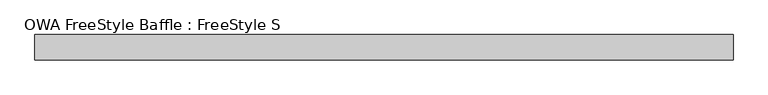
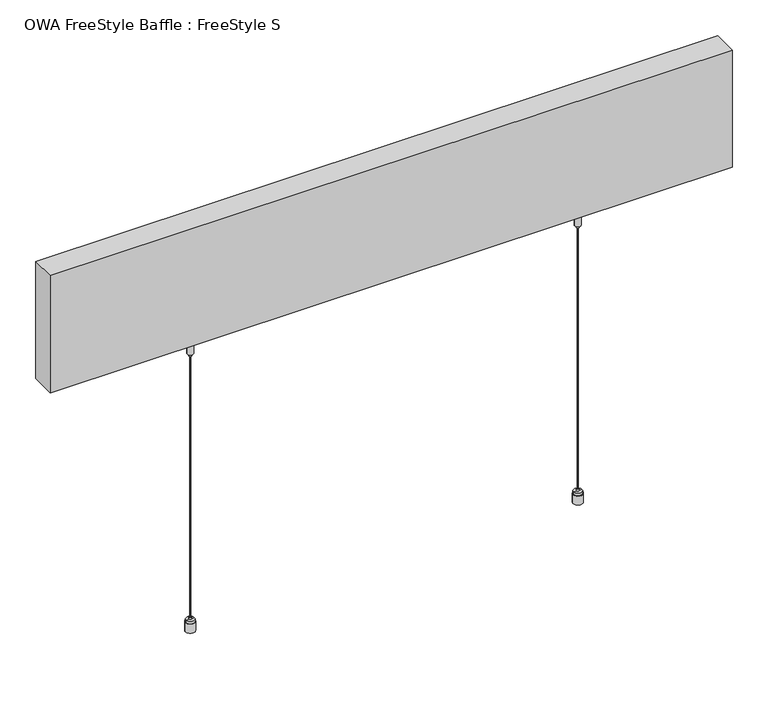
"""IFC4 building model written with IfcOpenShell, lengths in millimetres: proxy geometry, OWA FreeStyle Baffle : FreeStyle S."""

from ifc_helpers import new_model, si_unit, point, frame, frame_2d, origin, place, context, project, spatial, polyline, circle_curve, trimmed, segment, composite_curve, outline, extrude, source, transform, mapped, element, save
from ifc_brep_helpers import plane_surface, cylinder_surface, revolved_surface, advanced_brep


def owa_freestyle_baffle_freestyle_s_ccccea6c(model_context):
    return source(origin(), model_context, "Body", "SolidModel", [
        advanced_brep(
        [(-746.0, 0.0, 0.0), (-738.2593825, 0.0, 0.0), (-753.7406175, 0.0, 0.0), (-738.2593825, 0.0, 15.0), (-753.7406175, 0.0, 15.0), (-739.1843825, 0.0, 15.0), (-752.8156175, 0.0, 15.0), (-739.1843825, 0.0, 19.0), (-752.8156175, 0.0, 19.0), (-743.9343825, 0.0, 19.0), (-748.0656175, 0.0, 19.0), (-743.9343825, 0.0, 22.546183), (-748.0656175, 0.0, 22.546183), (-746.0, 0.0, 22.546183)],
        [
            (0, 1),
            (1, 2, circle_curve(frame((-746.0, 0.0, 0.0), z_axis=(0.0, 0.0, -1.0), x_axis=(-1.0, 0.0, 0.0)), 7.7406175)),
            (2, 0),
            (2, 1, circle_curve(frame((-746.0, 0.0, 0.0), z_axis=(0.0, 0.0, -1.0), x_axis=(-1.0, 0.0, 0.0)), 7.7406175)),
            (1, 3),
            (3, 4, circle_curve(frame((-746.0, 0.0, 15.0), z_axis=(0.0, 0.0, -1.0), x_axis=(-1.0, 0.0, 0.0)), 7.7406175)),
            (4, 2),
            (4, 3, circle_curve(frame((-746.0, 0.0, 15.0), z_axis=(0.0, 0.0, -1.0), x_axis=(-1.0, 0.0, 0.0)), 7.7406175)),
            (3, 5),
            (5, 6, circle_curve(frame((-746.0, 0.0, 15.0), z_axis=(0.0, 0.0, -1.0), x_axis=(-1.0, 0.0, 0.0)), 6.8156175)),
            (6, 4),
            (6, 5, circle_curve(frame((-746.0, 0.0, 15.0), z_axis=(0.0, 0.0, -1.0), x_axis=(-1.0, 0.0, 0.0)), 6.8156175)),
            (5, 7),
            (7, 8, circle_curve(frame((-746.0, 0.0, 19.0), z_axis=(0.0, 0.0, -1.0), x_axis=(-1.0, 0.0, 0.0)), 6.8156175)),
            (8, 6),
            (8, 7, circle_curve(frame((-746.0, 0.0, 19.0), z_axis=(0.0, 0.0, -1.0), x_axis=(-1.0, 0.0, 0.0)), 6.8156175)),
            (7, 9),
            (9, 10, circle_curve(frame((-746.0, 0.0, 19.0), z_axis=(0.0, 0.0, -1.0), x_axis=(-1.0, 0.0, 0.0)), 2.0656175)),
            (10, 8),
            (10, 9, circle_curve(frame((-746.0, 0.0, 19.0), z_axis=(0.0, 0.0, -1.0), x_axis=(-1.0, 0.0, 0.0)), 2.0656175)),
            (9, 11),
            (11, 12, circle_curve(frame((-746.0, 0.0, 22.546183), z_axis=(0.0, 0.0, -1.0), x_axis=(-1.0, 0.0, 0.0)), 2.0656175)),
            (12, 10),
            (12, 11, circle_curve(frame((-746.0, 0.0, 22.546183), z_axis=(0.0, 0.0, -1.0), x_axis=(-1.0, 0.0, 0.0)), 2.0656175)),
            (11, 13),
            (13, 12),
        ],
        [
            plane_surface(frame((-746.0, 0.0, 0.0), z_axis=(0.0, 0.0, -1.0), x_axis=(-1.0, 0.0, 0.0))),
            cylinder_surface(frame((-746.0, 0.0, -10.0), z_axis=(0.0, 0.0, -1.0), x_axis=(-1.0, 0.0, 0.0)), 7.7406175),
            plane_surface(frame((-746.0, 0.0, 15.0), z_axis=(0.0, 0.0, 1.0), x_axis=(-1.0, 0.0, 0.0))),
            cylinder_surface(frame((-746.0, 0.0, -10.0), z_axis=(0.0, 0.0, -1.0), x_axis=(-1.0, 0.0, 0.0)), 6.8156175),
            plane_surface(frame((-746.0, 0.0, 19.0), z_axis=(0.0, 0.0, 1.0), x_axis=(-1.0, 0.0, 0.0))),
            cylinder_surface(frame((-746.0, 0.0, -10.0), z_axis=(0.0, 0.0, -1.0), x_axis=(-1.0, 0.0, 0.0)), 2.0656175),
            plane_surface(frame((-746.0, 0.0, 22.546183), z_axis=(0.0, 0.0, 1.0), x_axis=(-1.0, 0.0, 0.0))),
        ],
        [
            (0, [[1, 2, 3]]),
            (0, [[-3, 4, -1]]),
            (1, [[5, 6, 7, -2]]),
            (1, [[-7, 8, -5, -4]]),
            (2, [[9, 10, 11, -6]]),
            (2, [[-11, 12, -9, -8]]),
            (3, [[13, 14, 15, -10]]),
            (3, [[-15, 16, -13, -12]]),
            (4, [[17, 18, 19, -14]]),
            (4, [[-19, 20, -17, -16]]),
            (5, [[21, 22, 23, -18]]),
            (5, [[-23, 24, -21, -20]]),
            (6, [[25, 26, -22]]),
            (6, [[-26, -25, -24]]),
        ],
    ),
        advanced_brep(
        [(-743.7615389, 0.0, 468.8211737), (-743.6339453, 0.0, 472.8711737), (-748.3660547, 0.0, 472.8711737), (-748.2384611, 0.0, 468.8211737), (-741.1339453, 0.0, 472.8711737), (-750.8660547, 0.0, 472.8711737), (-741.1339453, 0.0, 498.1211737), (-750.8660547, 0.0, 498.1211737), (-730.1339453, 0.0, 498.1211737), (-761.8660547, 0.0, 498.1211737), (-730.1339453, 0.0, 500.0), (-761.8660547, 0.0, 500.0), (-746.0, 0.0, 500.0), (-746.0, 0.0, 468.8211737)],
        [
            (0, 1),
            (1, 2, circle_curve(frame((-746.0, 0.0, 472.8711737), z_axis=(0.0, 0.0, -1.0), x_axis=(-1.0, 0.0, 0.0)), 2.3660547)),
            (2, 3),
            (3, 0, circle_curve(frame((-746.0, 0.0, 468.8211737), z_axis=(0.0, 0.0, 1.0), x_axis=(-1.0, 0.0, 0.0)), 2.2384611)),
            (2, 1, circle_curve(frame((-746.0, 0.0, 472.8711737), z_axis=(0.0, 0.0, -1.0), x_axis=(-1.0, 0.0, 0.0)), 2.3660547)),
            (0, 3, circle_curve(frame((-746.0, 0.0, 468.8211737), z_axis=(0.0, 0.0, 1.0), x_axis=(-1.0, 0.0, 0.0)), 2.2384611)),
            (1, 4),
            (4, 5, circle_curve(frame((-746.0, 0.0, 472.8711737), z_axis=(0.0, 0.0, -1.0), x_axis=(-1.0, 0.0, 0.0)), 4.8660547)),
            (5, 2),
            (5, 4, circle_curve(frame((-746.0, 0.0, 472.8711737), z_axis=(0.0, 0.0, -1.0), x_axis=(-1.0, 0.0, 0.0)), 4.8660547)),
            (4, 6),
            (6, 7, circle_curve(frame((-746.0, 0.0, 498.1211737), z_axis=(0.0, 0.0, -1.0), x_axis=(-1.0, 0.0, 0.0)), 4.8660547)),
            (7, 5),
            (7, 6, circle_curve(frame((-746.0, 0.0, 498.1211737), z_axis=(0.0, 0.0, -1.0), x_axis=(-1.0, 0.0, 0.0)), 4.8660547)),
            (6, 8),
            (8, 9, circle_curve(frame((-746.0, 0.0, 498.1211737), z_axis=(0.0, 0.0, -1.0), x_axis=(-1.0, 0.0, 0.0)), 15.8660547)),
            (9, 7),
            (9, 8, circle_curve(frame((-746.0, 0.0, 498.1211737), z_axis=(0.0, 0.0, -1.0), x_axis=(-1.0, 0.0, 0.0)), 15.8660547)),
            (8, 10),
            (10, 11, circle_curve(frame((-746.0, 0.0, 500.0), z_axis=(0.0, 0.0, -1.0), x_axis=(-1.0, 0.0, 0.0)), 15.8660547)),
            (11, 9),
            (11, 10, circle_curve(frame((-746.0, 0.0, 500.0), z_axis=(0.0, 0.0, -1.0), x_axis=(-1.0, 0.0, 0.0)), 15.8660547)),
            (10, 12),
            (12, 11),
            (13, 0),
            (3, 13),
        ],
        [
            revolved_surface(polyline([(-748.3660547, 0.0, 472.8711737), (-748.2384611, 0.0, 468.8211737)]), (-746.0, 0.0, 501.8401096), (0.0, 0.0, -1.0)),
            plane_surface(frame((-746.0, 0.0, 472.8711737), z_axis=(0.0, 0.0, -1.0), x_axis=(-1.0, 0.0, 0.0))),
            cylinder_surface(frame((-746.0, 0.0, 501.8401096), z_axis=(0.0, 0.0, -1.0), x_axis=(-1.0, 0.0, 0.0)), 4.8660547),
            plane_surface(frame((-746.0, 0.0, 498.1211737), z_axis=(0.0, 0.0, -1.0), x_axis=(-1.0, 0.0, 0.0))),
            cylinder_surface(frame((-746.0, 0.0, 501.8401096), z_axis=(0.0, 0.0, -1.0), x_axis=(-1.0, 0.0, 0.0)), 15.8660547),
            plane_surface(frame((-746.0, 0.0, 500.0), z_axis=(0.0, 0.0, 1.0), x_axis=(-1.0, 0.0, 0.0))),
            plane_surface(frame((-746.0, 0.0, 468.8211737), z_axis=(0.0, 0.0, -1.0), x_axis=(-1.0, 0.0, 0.0))),
        ],
        [
            (0, [[1, 2, 3, 4]]),
            (0, [[-3, 5, -1, 6]]),
            (1, [[7, 8, 9, -2]]),
            (1, [[-9, 10, -7, -5]]),
            (2, [[11, 12, 13, -8]]),
            (2, [[-13, 14, -11, -10]]),
            (3, [[15, 16, 17, -12]]),
            (3, [[-17, 18, -15, -14]]),
            (4, [[19, 20, 21, -16]]),
            (4, [[-21, 22, -19, -18]]),
            (5, [[23, 24, -20]]),
            (5, [[-24, -23, -22]]),
            (6, [[25, -4, 26]]),
            (6, [[-26, -6, -25]]),
        ],
    ),
        extrude(outline(composite_curve([segment(trimmed(circle_curve(frame_2d((-746.0, 0.0)), 1.0), [point((-747.0, 0.0))], [point((-745.0, 0.0))], False, "CARTESIAN"), True, "CONTINUOUS"), segment(trimmed(circle_curve(frame_2d((-746.0, 0.0)), 1.0), [point((-745.0, 0.0))], [point((-747.0, 0.0))], False, "CARTESIAN"), True, "CONTINUOUS")], self_intersect=False)), frame((0.0, 0.0, 22.546183), z_axis=(0.0, 0.0, 1.0), x_axis=(1.0, 0.0, 0.0)), (0.0, 0.0, 1.0), 446.2749908),
        advanced_brep(
        [(-121.0, 0.0, 0.0), (-113.2593825, 0.0, 0.0), (-128.7406175, 0.0, 0.0), (-113.2593825, 0.0, 15.0), (-128.7406175, 0.0, 15.0), (-114.1843825, 0.0, 15.0), (-127.8156175, 0.0, 15.0), (-114.1843825, 0.0, 19.0), (-127.8156175, 0.0, 19.0), (-118.9343825, 0.0, 19.0), (-123.0656175, 0.0, 19.0), (-118.9343825, 0.0, 22.546183), (-123.0656175, 0.0, 22.546183), (-121.0, 0.0, 22.546183)],
        [
            (0, 1),
            (1, 2, circle_curve(frame((-121.0, 0.0, 0.0), z_axis=(0.0, 0.0, -1.0), x_axis=(1.0, 0.0, 0.0)), 7.7406175)),
            (2, 0),
            (2, 1, circle_curve(frame((-121.0, 0.0, 0.0), z_axis=(0.0, 0.0, -1.0), x_axis=(1.0, 0.0, 0.0)), 7.7406175)),
            (1, 3),
            (3, 4, circle_curve(frame((-121.0, 0.0, 15.0), z_axis=(0.0, 0.0, -1.0), x_axis=(1.0, 0.0, 0.0)), 7.7406175)),
            (4, 2),
            (4, 3, circle_curve(frame((-121.0, 0.0, 15.0), z_axis=(0.0, 0.0, -1.0), x_axis=(1.0, 0.0, 0.0)), 7.7406175)),
            (3, 5),
            (5, 6, circle_curve(frame((-121.0, 0.0, 15.0), z_axis=(0.0, 0.0, -1.0), x_axis=(1.0, 0.0, 0.0)), 6.8156175)),
            (6, 4),
            (6, 5, circle_curve(frame((-121.0, 0.0, 15.0), z_axis=(0.0, 0.0, -1.0), x_axis=(1.0, 0.0, 0.0)), 6.8156175)),
            (5, 7),
            (7, 8, circle_curve(frame((-121.0, 0.0, 19.0), z_axis=(0.0, 0.0, -1.0), x_axis=(1.0, 0.0, 0.0)), 6.8156175)),
            (8, 6),
            (8, 7, circle_curve(frame((-121.0, 0.0, 19.0), z_axis=(0.0, 0.0, -1.0), x_axis=(1.0, 0.0, 0.0)), 6.8156175)),
            (7, 9),
            (9, 10, circle_curve(frame((-121.0, 0.0, 19.0), z_axis=(0.0, 0.0, -1.0), x_axis=(1.0, 0.0, 0.0)), 2.0656175)),
            (10, 8),
            (10, 9, circle_curve(frame((-121.0, 0.0, 19.0), z_axis=(0.0, 0.0, -1.0), x_axis=(1.0, 0.0, 0.0)), 2.0656175)),
            (9, 11),
            (11, 12, circle_curve(frame((-121.0, 0.0, 22.546183), z_axis=(0.0, 0.0, -1.0), x_axis=(1.0, 0.0, 0.0)), 2.0656175)),
            (12, 10),
            (12, 11, circle_curve(frame((-121.0, 0.0, 22.546183), z_axis=(0.0, 0.0, -1.0), x_axis=(1.0, 0.0, 0.0)), 2.0656175)),
            (11, 13),
            (13, 12),
        ],
        [
            plane_surface(frame((-121.0, 0.0, 0.0), z_axis=(0.0, 0.0, -1.0), x_axis=(1.0, 0.0, 0.0))),
            cylinder_surface(frame((-121.0, 0.0, -10.0), z_axis=(0.0, 0.0, -1.0), x_axis=(1.0, 0.0, 0.0)), 7.7406175),
            plane_surface(frame((-121.0, 0.0, 15.0), z_axis=(0.0, 0.0, 1.0), x_axis=(1.0, 0.0, 0.0))),
            cylinder_surface(frame((-121.0, 0.0, -10.0), z_axis=(0.0, 0.0, -1.0), x_axis=(1.0, 0.0, 0.0)), 6.8156175),
            plane_surface(frame((-121.0, 0.0, 19.0), z_axis=(0.0, 0.0, 1.0), x_axis=(1.0, 0.0, 0.0))),
            cylinder_surface(frame((-121.0, 0.0, -10.0), z_axis=(0.0, 0.0, -1.0), x_axis=(1.0, 0.0, 0.0)), 2.0656175),
            plane_surface(frame((-121.0, 0.0, 22.546183), z_axis=(0.0, 0.0, 1.0), x_axis=(1.0, 0.0, 0.0))),
        ],
        [
            (0, [[1, 2, 3]]),
            (0, [[-3, 4, -1]]),
            (1, [[-2, 5, 6, 7]]),
            (1, [[-4, -7, 8, -5]]),
            (2, [[-6, 9, 10, 11]]),
            (2, [[-8, -11, 12, -9]]),
            (3, [[-10, 13, 14, 15]]),
            (3, [[-12, -15, 16, -13]]),
            (4, [[-14, 17, 18, 19]]),
            (4, [[-16, -19, 20, -17]]),
            (5, [[-18, 21, 22, 23]]),
            (5, [[-20, -23, 24, -21]]),
            (6, [[-22, 25, 26]]),
            (6, [[-24, -26, -25]]),
        ],
    ),
        advanced_brep(
        [(-123.2384611, 0.0, 468.8211737), (-118.7615389, 0.0, 468.8211737), (-118.6339453, 0.0, 472.8711737), (-123.3660547, 0.0, 472.8711737), (-116.1339453, 0.0, 472.8711737), (-125.8660547, 0.0, 472.8711737), (-116.1339453, 0.0, 498.1211737), (-125.8660547, 0.0, 498.1211737), (-105.1339453, 0.0, 498.1211737), (-136.8660547, 0.0, 498.1211737), (-105.1339453, 0.0, 500.0), (-136.8660547, 0.0, 500.0), (-121.0, 0.0, 500.0), (-121.0, 0.0, 468.8211737)],
        [
            (0, 1, circle_curve(frame((-121.0, 0.0, 468.8211737), z_axis=(0.0, 0.0, 1.0), x_axis=(1.0, 0.0, 0.0)), 2.2384611)),
            (1, 2),
            (2, 3, circle_curve(frame((-121.0, 0.0, 472.8711737), z_axis=(0.0, 0.0, -1.0), x_axis=(1.0, 0.0, 0.0)), 2.3660547)),
            (3, 0),
            (1, 0, circle_curve(frame((-121.0, 0.0, 468.8211737), z_axis=(0.0, 0.0, 1.0), x_axis=(1.0, 0.0, 0.0)), 2.2384611)),
            (3, 2, circle_curve(frame((-121.0, 0.0, 472.8711737), z_axis=(0.0, 0.0, -1.0), x_axis=(1.0, 0.0, 0.0)), 2.3660547)),
            (2, 4),
            (4, 5, circle_curve(frame((-121.0, 0.0, 472.8711737), z_axis=(0.0, 0.0, -1.0), x_axis=(1.0, 0.0, 0.0)), 4.8660547)),
            (5, 3),
            (5, 4, circle_curve(frame((-121.0, 0.0, 472.8711737), z_axis=(0.0, 0.0, -1.0), x_axis=(1.0, 0.0, 0.0)), 4.8660547)),
            (4, 6),
            (6, 7, circle_curve(frame((-121.0, 0.0, 498.1211737), z_axis=(0.0, 0.0, -1.0), x_axis=(1.0, 0.0, 0.0)), 4.8660547)),
            (7, 5),
            (7, 6, circle_curve(frame((-121.0, 0.0, 498.1211737), z_axis=(0.0, 0.0, -1.0), x_axis=(1.0, 0.0, 0.0)), 4.8660547)),
            (6, 8),
            (8, 9, circle_curve(frame((-121.0, 0.0, 498.1211737), z_axis=(0.0, 0.0, -1.0), x_axis=(1.0, 0.0, 0.0)), 15.8660547)),
            (9, 7),
            (9, 8, circle_curve(frame((-121.0, 0.0, 498.1211737), z_axis=(0.0, 0.0, -1.0), x_axis=(1.0, 0.0, 0.0)), 15.8660547)),
            (8, 10),
            (10, 11, circle_curve(frame((-121.0, 0.0, 500.0), z_axis=(0.0, 0.0, -1.0), x_axis=(1.0, 0.0, 0.0)), 15.8660547)),
            (11, 9),
            (11, 10, circle_curve(frame((-121.0, 0.0, 500.0), z_axis=(0.0, 0.0, -1.0), x_axis=(1.0, 0.0, 0.0)), 15.8660547)),
            (10, 12),
            (12, 11),
            (13, 1),
            (0, 13),
        ],
        [
            revolved_surface(polyline([(-118.6339453, 0.0, 472.8711737), (-118.7615389, 0.0, 468.8211737)]), (-121.0, 0.0, 501.8401096), (0.0, 0.0, -1.0)),
            plane_surface(frame((-121.0, 0.0, 472.8711737), z_axis=(0.0, 0.0, -1.0), x_axis=(1.0, 0.0, 0.0))),
            cylinder_surface(frame((-121.0, 0.0, 501.8401096), z_axis=(0.0, 0.0, -1.0), x_axis=(1.0, 0.0, 0.0)), 4.8660547),
            plane_surface(frame((-121.0, 0.0, 498.1211737), z_axis=(0.0, 0.0, -1.0), x_axis=(1.0, 0.0, 0.0))),
            cylinder_surface(frame((-121.0, 0.0, 501.8401096), z_axis=(0.0, 0.0, -1.0), x_axis=(1.0, 0.0, 0.0)), 15.8660547),
            plane_surface(frame((-121.0, 0.0, 500.0), z_axis=(0.0, 0.0, 1.0), x_axis=(1.0, 0.0, 0.0))),
            plane_surface(frame((-121.0, 0.0, 468.8211737), z_axis=(0.0, 0.0, -1.0), x_axis=(1.0, 0.0, 0.0))),
        ],
        [
            (0, [[1, 2, 3, 4]]),
            (0, [[5, -4, 6, -2]]),
            (1, [[-3, 7, 8, 9]]),
            (1, [[-6, -9, 10, -7]]),
            (2, [[-8, 11, 12, 13]]),
            (2, [[-10, -13, 14, -11]]),
            (3, [[-12, 15, 16, 17]]),
            (3, [[-14, -17, 18, -15]]),
            (4, [[-16, 19, 20, 21]]),
            (4, [[-18, -21, 22, -19]]),
            (5, [[-20, 23, 24]]),
            (5, [[-22, -24, -23]]),
            (6, [[25, -1, 26]]),
            (6, [[-26, -5, -25]]),
        ],
    ),
        extrude(outline(composite_curve([segment(trimmed(circle_curve(frame_2d((-121.0, 0.0)), 1.0), [point((-120.0, 0.0))], [point((-122.0, 0.0))], False, "CARTESIAN"), True, "CONTINUOUS"), segment(trimmed(circle_curve(frame_2d((-121.0, 0.0)), 1.0), [point((-122.0, 0.0))], [point((-120.0, 0.0))], False, "CARTESIAN"), True, "CONTINUOUS")], self_intersect=False)), frame((0.0, 0.0, 22.546183), z_axis=(0.0, 0.0, 1.0), x_axis=(1.0, 0.0, 0.0)), (0.0, 0.0, 1.0), 446.2749908),
        extrude(outline(polyline([(116.5, -20.0), (-983.5, -20.0), (-983.5, 20.0), (116.5, 20.0), (116.5, -20.0)])), frame((0.0, 0.0, 500.0), z_axis=(0.0, 0.0, 1.0), x_axis=(1.0, 0.0, 0.0)), (0.0, 0.0, 1.0), 200.0),
    ])


if __name__ == "__main__":
    model = new_model("IFC4")
    model_context = context("Model", 3, world=origin())
    ifc_project = project(units=[si_unit("LENGTHUNIT", "METRE", prefix="MILLI")], contexts=[model_context])
    site = spatial("IfcSite", under=ifc_project)
    building = spatial("IfcBuilding", under=site)
    placement = place(None, origin())
    owa_freestyle_baffle_freestyle_s_shape = owa_freestyle_baffle_freestyle_s_ccccea6c(model_context)
    element("IfcBuildingElementProxy", 1, Name="OWA FreeStyle Baffle : FreeStyle S", ObjectType="OWA FreeStyle Baffle : FreeStyle S", at=placement, inside=building, context=model_context, shape_type="MappedRepresentation", body=[
        mapped(owa_freestyle_baffle_freestyle_s_shape, transform((0.0, 0.0, 0.0), x_axis=(1.0, 0.0, 0.0), y_axis=(0.0, 1.0, 0.0), z_axis=(0.0, 0.0, 1.0))),
    ])
    save(model, "model.ifc")
